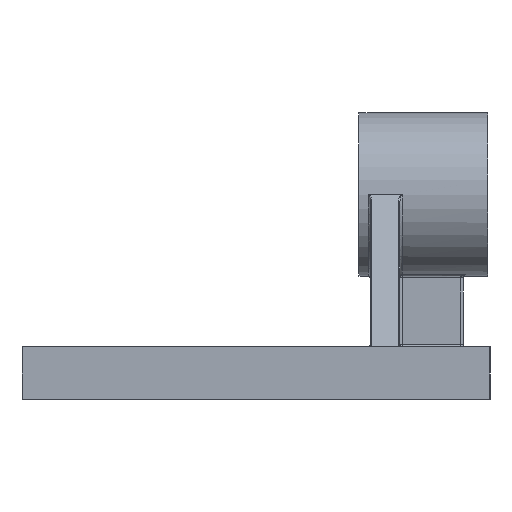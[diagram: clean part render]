
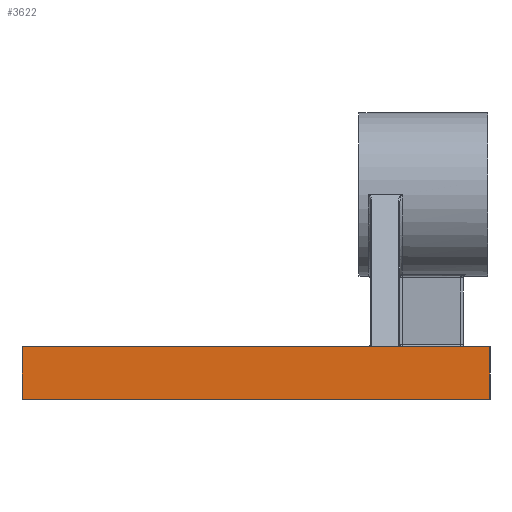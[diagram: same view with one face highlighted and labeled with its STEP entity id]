
A CAD part, left-side view. The second image highlights one B-rep face of the part: STEP entity #3622.
In plain terms, the highlighted planar face has unit normal (-1, 0, 0).
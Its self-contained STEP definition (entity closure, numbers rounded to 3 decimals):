
#2719=CARTESIAN_POINT('',(-230.,200.,45.0));
#2720=VERTEX_POINT('',#2719);
#2727=CARTESIAN_POINT('',(-230.,-200.0,45.0));
#2728=VERTEX_POINT('',#2727);
#2729=CARTESIAN_POINT('',(-230.,-200.0,45.0));
#2730=DIRECTION('',(0.0,1.0,0.0));
#2731=VECTOR('',#2730,400.);
#2732=LINE('',#2729,#2731);
#2733=EDGE_CURVE('',#2728,#2720,#2732,.T.);
#3581=CARTESIAN_POINT('',(-230.,-200.0,0.0));
#3582=VERTEX_POINT('',#3581);
#3583=CARTESIAN_POINT('',(-230.,-200.0,0.0));
#3584=DIRECTION('',(0.0,0.0,1.0));
#3585=VECTOR('',#3584,45.0);
#3586=LINE('',#3583,#3585);
#3587=EDGE_CURVE('',#3582,#2728,#3586,.T.);
#3599=CARTESIAN_POINT('',(-230.,-200.0,0.0));
#3600=DIRECTION('',(-1.0,0.0,0.0));
#3601=DIRECTION('',(0.0,0.0,1.0));
#3602=AXIS2_PLACEMENT_3D('',#3599,#3600,#3601);
#3603=PLANE('',#3602);
#3604=ORIENTED_EDGE('',*,*,#2733,.T.);
#3605=CARTESIAN_POINT('',(-230.,200.,0.0));
#3606=VERTEX_POINT('',#3605);
#3607=CARTESIAN_POINT('',(-230.,200.,0.0));
#3608=DIRECTION('',(0.0,0.0,1.0));
#3609=VECTOR('',#3608,45.0);
#3610=LINE('',#3607,#3609);
#3611=EDGE_CURVE('',#3606,#2720,#3610,.T.);
#3612=ORIENTED_EDGE('',*,*,#3611,.F.);
#3613=CARTESIAN_POINT('',(-230.,200.,0.0));
#3614=DIRECTION('',(0.0,-1.0,0.0));
#3615=VECTOR('',#3614,400.);
#3616=LINE('',#3613,#3615);
#3617=EDGE_CURVE('',#3606,#3582,#3616,.T.);
#3618=ORIENTED_EDGE('',*,*,#3617,.T.);
#3619=ORIENTED_EDGE('',*,*,#3587,.T.);
#3620=EDGE_LOOP('',(#3604,#3612,#3618,#3619));
#3621=FACE_OUTER_BOUND('',#3620,.T.);
#3622=ADVANCED_FACE('',(#3621),#3603,.T.);
